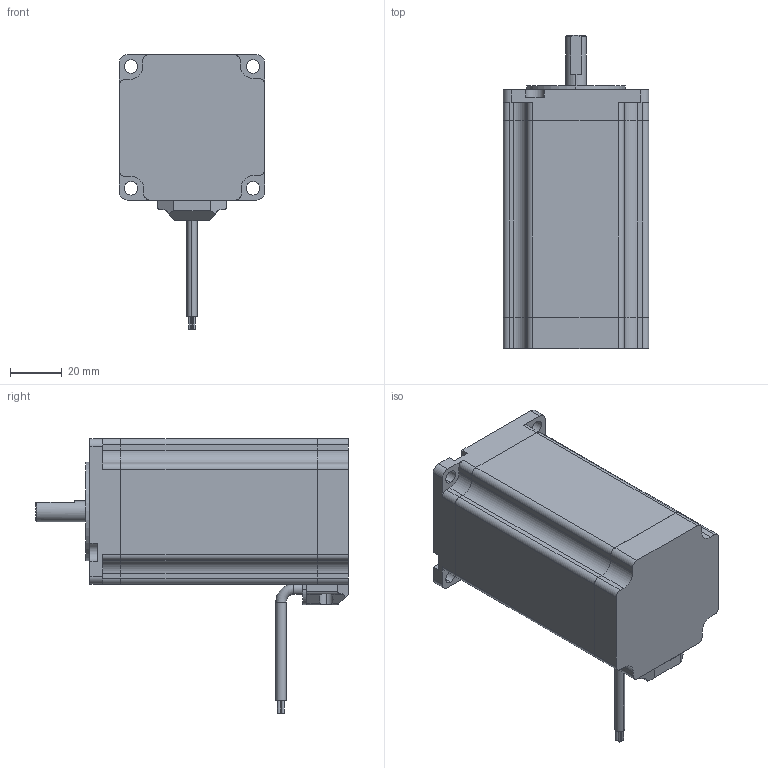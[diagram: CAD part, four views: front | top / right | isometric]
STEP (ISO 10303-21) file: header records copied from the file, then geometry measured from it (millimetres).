
FILE_DESCRIPTION (( 'STEP AP203' ), '1' );
FILE_NAME ('57HS2100-4-4A.STEP', '2019-11-19T05:03:55', ( '' ), ( '' ), 'SwSTEP 2.0', 'SolidWorks 2017', '' );
FILE_SCHEMA (( 'CONFIG_CONTROL_DESIGN' ));
Length unit declared in the file: millimetre
Products named in the file (1): 57HS2100-4-4A
Bounding box: 56.2 x 121 x 106.2 mm (x, y, z)
Volume: 289094.5 mm3; surface area: 34021 mm2
Topology: 3 solids, 3 shells, 197 faces, 535 edges, 353 vertices
Faces by surface type: cylinder 97, plane 94, cone 4, torus 2
Entity records: 6403 total; most frequent: CARTESIAN_POINT 1188, DIRECTION 1104, ORIENTED_EDGE 1070, EDGE_CURVE 535, AXIS2_PLACEMENT_3D 391, VERTEX_POINT 353, VECTOR 322, LINE 322
